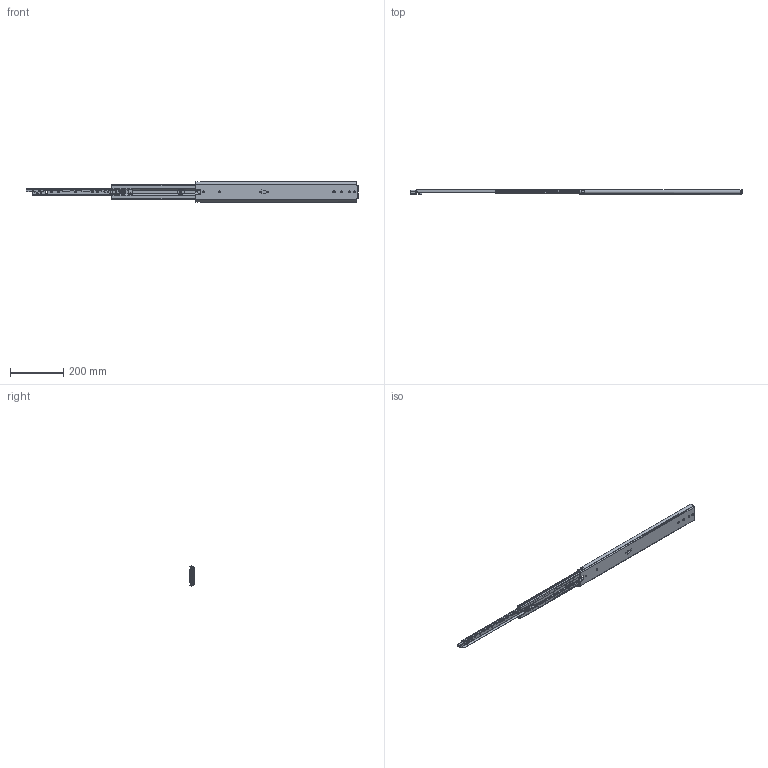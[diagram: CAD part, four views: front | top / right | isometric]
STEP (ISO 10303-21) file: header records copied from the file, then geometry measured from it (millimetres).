
FILE_DESCRIPTION((''),'2;1');
FILE_NAME('DCL2307619-609-OPEN_ASM_ASM','2023-05-10T',('jishu015'),(''),'PRO/ENGINEER BY PARAMETRIC TECHNOLOGY CORPORATION, 2010280','PRO/ENGINEER BY PARAMETRIC TECHNOLOGY CORPORATION, 2010280','');
FILE_SCHEMA(('CONFIG_CONTROL_DESIGN'));
Products named in the file (32): KP-76-04WAIKE-1816_____2; 1076-WAIKEZIDANJIAO16_____1; WAIK16_____ASM_1_ASM; 1076XIAOZHUTIAO-22516_____1; 16_____1; 1076XIAOZHUTIAO-17516_____ASM_1_ASM; KP-76-04ZHONGGUI1816_____1; 76CHANGGUIZHONGGUIJIAO16_____1; 3X6WODIN16_____1; ZHONGGUIBAIKOU16_____1; PJ-76-30____1; PJ-76-03____1; 76-XIAOZHUJIA-11____1; GANGZHU-XIAO____1; ZHUJIA-XIAO____ASM_1_ASM; ZHONGGUI6_____ASM_2_ASM; KP-76-04NEIGUI1816_____2; PJ-76-31____1; DAOGPIAN16_____1; MANIFOLD_SOLID_BREP_58917; MANIFOLD_SOLID_BREP_59358; 1053-3SBANJ01____2_ASM; JIAO-11____2; 76XINSUOKOU____2; PJ-338____1; PJ-356____1; PJ-357____1; PJ-336____1; M4X4____1; NEIGUI16_____ASM_2_ASM; DG-76-3S-24YOU_ASM_2_ASM; DCL2307619-609-OPEN_ASM_ASM
Assembly tree (61 placements, depth 5):
  DCL2307619-609-OPEN_ASM_ASM
    DG-76-3S-24YOU_ASM_2_ASM
      WAIK16_____ASM_1_ASM
        KP-76-04WAIKE-1816_____2
        1076-WAIKEZIDANJIAO16_____1  x2
      1076XIAOZHUTIAO-17516_____ASM_1_ASM  x2
        1076XIAOZHUTIAO-22516_____1
        16_____1
      ZHONGGUI6_____ASM_2_ASM
        KP-76-04ZHONGGUI1816_____1
        76CHANGGUIZHONGGUIJIAO16_____1
        3X6WODIN16_____1
        ZHONGGUIBAIKOU16_____1
        PJ-76-30____1
        PJ-76-03____1
        ZHUJIA-XIAO____ASM_1_ASM
          76-XIAOZHUJIA-11____1
          GANGZHU-XIAO____1  x20
      NEIGUI16_____ASM_2_ASM
        KP-76-04NEIGUI1816_____2
        PJ-76-31____1
        DAOGPIAN16_____1
        1053-3SBANJ01____2_ASM
          MANIFOLD_SOLID_BREP_58917
          MANIFOLD_SOLID_BREP_59358
        JIAO-11____2
        76XINSUOKOU____2
        PJ-338____1
        PJ-356____1
        PJ-357____1
        PJ-336____1
        M4X4____1
Bounding box: 1245.12 x 20.7 x 75.29 mm (x, y, z)
Volume: 398917.9 mm3; surface area: 384182.4 mm2
Topology: 64 solids, 64 shells, 2060 faces, 6454 edges, 4249 vertices
Faces by surface type: plane 874, cylinder 762, sphere 147, bspline 129, torus 96, cone 28, extrusion 24
Entity records: 75080 total; most frequent: CARTESIAN_POINT 24481, ORIENTED_EDGE 11284, DIRECTION 9863, EDGE_CURVE 5642, VERTEX_POINT 3792, AXIS2_PLACEMENT_3D 3570, VECTOR 2723, LINE 2699
